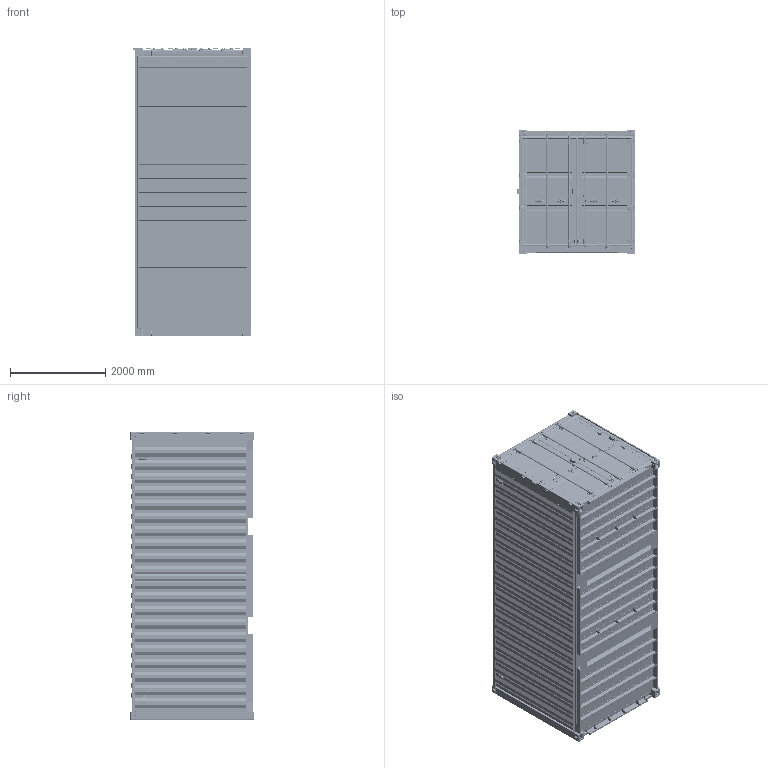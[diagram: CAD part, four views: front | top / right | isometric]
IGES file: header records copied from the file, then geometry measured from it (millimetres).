
Start section: SolidWorks IGES file using analytic representation for surfaces
Global section: file name: C:\Users\tride\Downloads\20ft-container-5.snapshot.171\20ft Container.IGS; native system: SolidWorks 2024; preprocessor: SolidWorks 2024; author: tride; date: 260109.121039; units: millimetre
Bounding box: 2474.5 x 2591 x 6058 mm (x, y, z)
Volume: 612672675.3 mm3; surface area: 198558551 mm2
Topology: 452 solids, 453 shells, 16705 faces, 91198 edges, 116947 vertices
Faces by surface type: revolution 7030, plane 5961, bspline 3714
